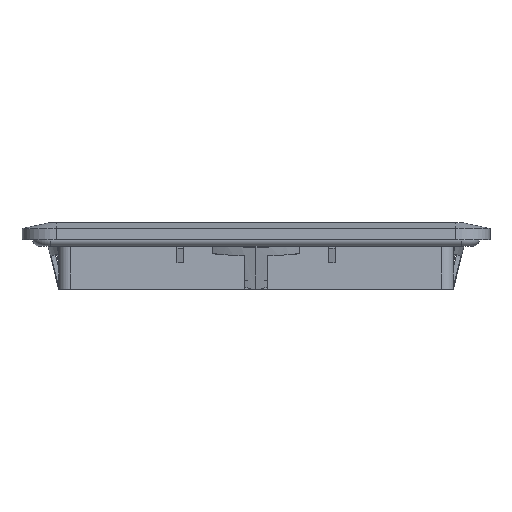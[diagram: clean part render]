
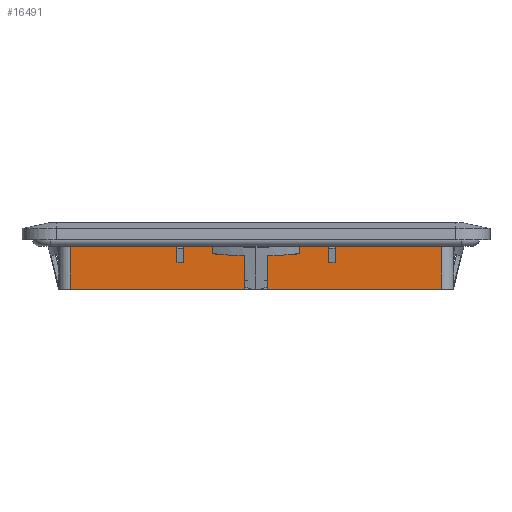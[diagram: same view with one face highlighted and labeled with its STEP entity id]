
A CAD part, front view. The second image highlights one B-rep face of the part: STEP entity #16491.
In plain terms, the highlighted planar face has unit normal (0, -1, 0).
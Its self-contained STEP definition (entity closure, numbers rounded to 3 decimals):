
#1213 = ORIENTED_EDGE ( 'NONE', *, *, #26068, .F. ) ;
#1215 = ORIENTED_EDGE ( 'NONE', *, *, #26067, .T. ) ;
#1217 = ORIENTED_EDGE ( 'NONE', *, *, #25685, .F. ) ;
#1219 = ORIENTED_EDGE ( 'NONE', *, *, #26066, .T. ) ;
#1221 = ORIENTED_EDGE ( 'NONE', *, *, #26087, .T. ) ;
#1223 = ORIENTED_EDGE ( 'NONE', *, *, #26065, .F. ) ;
#1225 = ORIENTED_EDGE ( 'NONE', *, *, #26064, .F. ) ;
#1227 = ORIENTED_EDGE ( 'NONE', *, *, #26063, .T. ) ;
#1229 = ORIENTED_EDGE ( 'NONE', *, *, #26091, .T. ) ;
#1232 = ORIENTED_EDGE ( 'NONE', *, *, #26062, .F. ) ;
#1234 = ORIENTED_EDGE ( 'NONE', *, *, #26061, .F. ) ;
#1236 = ORIENTED_EDGE ( 'NONE', *, *, #26060, .T. ) ;
#1238 = ORIENTED_EDGE ( 'NONE', *, *, #14871, .T. ) ;
#1240 = ORIENTED_EDGE ( 'NONE', *, *, #26059, .F. ) ;
#1242 = ORIENTED_EDGE ( 'NONE', *, *, #25678, .F. ) ;
#1244 = ORIENTED_EDGE ( 'NONE', *, *, #26058, .F. ) ;
#1807 = CARTESIAN_POINT ( 'NONE',  ( -5., -86., -21.5 ) ) ;
#1829 = CARTESIAN_POINT ( 'NONE',  ( -81., -86., -21.5 ) ) ;
#1878 = CARTESIAN_POINT ( 'NONE',  ( 5., -86., -21.5 ) ) ;
#1889 = CARTESIAN_POINT ( 'NONE',  ( 81., -86., -21.5 ) ) ;
#2618 = CARTESIAN_POINT ( 'NONE',  ( -34.5, -86., -10. ) ) ;
#2638 = CARTESIAN_POINT ( 'NONE',  ( -34.5, -86., 2. ) ) ;
#2719 = CARTESIAN_POINT ( 'NONE',  ( -81., -86., 2. ) ) ;
#4400 = LINE ( 'NONE', #23827, #4402 ) ;
#4402 = VECTOR ( 'NONE', #23819, 1000. ) ;
#4407 = LINE ( 'NONE', #23845, #4410 ) ;
#4410 = VECTOR ( 'NONE', #23846, 1000. ) ;
#4756 = LINE ( 'NONE', #23263, #4781 ) ;
#4770 = LINE ( 'NONE', #23284, #4773 ) ;
#4772 = LINE ( 'NONE', #23286, #4775 ) ;
#4773 = VECTOR ( 'NONE', #23285, 1000. ) ;
#4774 = LINE ( 'NONE', #23288, #4777 ) ;
#4775 = VECTOR ( 'NONE', #23287, 1000. ) ;
#4776 = LINE ( 'NONE', #23290, #4779 ) ;
#4777 = VECTOR ( 'NONE', #23289, 1000. ) ;
#4778 = LINE ( 'NONE', #23269, #4787 ) ;
#4779 = VECTOR ( 'NONE', #23292, 1000. ) ;
#4780 = LINE ( 'NONE', #23294, #4783 ) ;
#4781 = VECTOR ( 'NONE', #23293, 1000. ) ;
#4782 = LINE ( 'NONE', #23296, #4785 ) ;
#4783 = VECTOR ( 'NONE', #23295, 1000. ) ;
#4785 = VECTOR ( 'NONE', #23298, 1000. ) ;
#4786 = LINE ( 'NONE', #23300, #4789 ) ;
#4787 = VECTOR ( 'NONE', #23299, 1000. ) ;
#4788 = LINE ( 'NONE', #23302, #4791 ) ;
#4789 = VECTOR ( 'NONE', #23301, 1000. ) ;
#4790 = LINE ( 'NONE', #23304, #4793 ) ;
#4791 = VECTOR ( 'NONE', #23303, 1000. ) ;
#4793 = VECTOR ( 'NONE', #23305, 1000. ) ;
#4828 = LINE ( 'NONE', #23319, #4830 ) ;
#4830 = VECTOR ( 'NONE', #23313, 1000. ) ;
#4835 = LINE ( 'NONE', #16990, #4838 ) ;
#4838 = VECTOR ( 'NONE', #16991, 1000. ) ;
#6192 = CARTESIAN_POINT ( 'NONE',  ( 5., -86., -17.5 ) ) ;
#6198 = CARTESIAN_POINT ( 'NONE',  ( -5., -86., -17.5 ) ) ;
#6225 = CARTESIAN_POINT ( 'NONE',  ( -31.5, -86., 2. ) ) ;
#6228 = CARTESIAN_POINT ( 'NONE',  ( 31.5, -86., 2. ) ) ;
#6393 = CARTESIAN_POINT ( 'NONE',  ( 34.5, -86., 2. ) ) ;
#6476 = CARTESIAN_POINT ( 'NONE',  ( -31.5, -86., -10. ) ) ;
#6530 = CARTESIAN_POINT ( 'NONE',  ( 81., -86., 2. ) ) ;
#8026 = AXIS2_PLACEMENT_3D ( 'NONE', #8948, #8952, #8953 ) ;
#8946 = PLANE ( 'NONE',  #8026 ) ;
#8948 = CARTESIAN_POINT ( 'NONE',  ( -81., -86., -16.5 ) ) ;
#8952 = DIRECTION ( 'NONE',  ( 0., 1., 0. ) ) ;
#8953 = DIRECTION ( 'NONE',  ( -1., 0., 0. ) ) ;
#10181 = CARTESIAN_POINT ( 'NONE',  ( 34.5, -86., -10. ) ) ;
#10322 = CARTESIAN_POINT ( 'NONE',  ( 31.5, -86., -10. ) ) ;
#10898 = CARTESIAN_POINT ( 'NONE',  ( -81., -86., 2. ) ) ;
#10902 = DIRECTION ( 'NONE',  ( -1., 0., 0. ) ) ;
#11487 = LINE ( 'NONE', #10898, #11492 ) ;
#11492 = VECTOR ( 'NONE', #10902, 1000. ) ;
#12201 = VERTEX_POINT ( 'NONE', #6530 ) ;
#12289 = VERTEX_POINT ( 'NONE', #6476 ) ;
#12427 = VERTEX_POINT ( 'NONE', #6393 ) ;
#12577 = VERTEX_POINT ( 'NONE', #6228 ) ;
#12579 = VERTEX_POINT ( 'NONE', #6225 ) ;
#12597 = VERTEX_POINT ( 'NONE', #6198 ) ;
#12601 = VERTEX_POINT ( 'NONE', #6192 ) ;
#13839 = VERTEX_POINT ( 'NONE', #2719 ) ;
#13872 = VERTEX_POINT ( 'NONE', #2618 ) ;
#13998 = VERTEX_POINT ( 'NONE', #2638 ) ;
#14190 = VERTEX_POINT ( 'NONE', #10181 ) ;
#14330 = VERTEX_POINT ( 'NONE', #10322 ) ;
#14836 = EDGE_LOOP ( 'NONE', ( #1213, #1215, #1217, #1219, #1221, #1223, #1225, #1227, #1229, #1232, #1234, #1236, #1238, #1240, #1242, #1244 ) ) ;
#14871 = EDGE_CURVE ( 'NONE', #13998, #13839, #11487, .T. ) ;
#16491 = ADVANCED_FACE ( 'NONE', ( #17775 ), #8946, .F. ) ;
#16990 = CARTESIAN_POINT ( 'NONE',  ( -81., -86., 2. ) ) ;
#16991 = DIRECTION ( 'NONE',  ( -1., 0., 0. ) ) ;
#17775 = FACE_OUTER_BOUND ( 'NONE', #14836, .T. ) ;
#19516 = VERTEX_POINT ( 'NONE', #1807 ) ;
#19538 = VERTEX_POINT ( 'NONE', #1829 ) ;
#19572 = VERTEX_POINT ( 'NONE', #1878 ) ;
#19578 = VERTEX_POINT ( 'NONE', #1889 ) ;
#23263 = CARTESIAN_POINT ( 'NONE',  ( -31.5, -86., -10. ) ) ;
#23269 = CARTESIAN_POINT ( 'NONE',  ( 34.5, -86., -10. ) ) ;
#23284 = CARTESIAN_POINT ( 'NONE',  ( -5., -86., -17.5 ) ) ;
#23285 = DIRECTION ( 'NONE',  ( 0., 0., -1. ) ) ;
#23286 = CARTESIAN_POINT ( 'NONE',  ( -81., -86., -16.5 ) ) ;
#23287 = DIRECTION ( 'NONE',  ( 0., 0., 1. ) ) ;
#23288 = CARTESIAN_POINT ( 'NONE',  ( -34.5, -86., -10. ) ) ;
#23289 = DIRECTION ( 'NONE',  ( 0., 0., 1. ) ) ;
#23290 = CARTESIAN_POINT ( 'NONE',  ( -31.5, -86., -10. ) ) ;
#23292 = DIRECTION ( 'NONE',  ( 1., 0., 0. ) ) ;
#23293 = DIRECTION ( 'NONE',  ( 0., 0., 1. ) ) ;
#23294 = CARTESIAN_POINT ( 'NONE',  ( 31.5, -86., -10. ) ) ;
#23295 = DIRECTION ( 'NONE',  ( 0., 0., 1. ) ) ;
#23296 = CARTESIAN_POINT ( 'NONE',  ( 31.5, -86., -10. ) ) ;
#23298 = DIRECTION ( 'NONE',  ( 1., 0., 0. ) ) ;
#23299 = DIRECTION ( 'NONE',  ( 0., 0., 1. ) ) ;
#23300 = CARTESIAN_POINT ( 'NONE',  ( 81., -86., -16.5 ) ) ;
#23301 = DIRECTION ( 'NONE',  ( 0., 0., 1. ) ) ;
#23302 = CARTESIAN_POINT ( 'NONE',  ( 5., -86., -17.5 ) ) ;
#23303 = DIRECTION ( 'NONE',  ( 0., 0., -1. ) ) ;
#23304 = CARTESIAN_POINT ( 'NONE',  ( -5., -86., -17.5 ) ) ;
#23305 = DIRECTION ( 'NONE',  ( -1., 0., 0. ) ) ;
#23313 = DIRECTION ( 'NONE',  ( -1., 0., 0. ) ) ;
#23319 = CARTESIAN_POINT ( 'NONE',  ( -81., -86., 2. ) ) ;
#23819 = DIRECTION ( 'NONE',  ( -1., 0., 0. ) ) ;
#23827 = CARTESIAN_POINT ( 'NONE',  ( -81., -86., -21.5 ) ) ;
#23845 = CARTESIAN_POINT ( 'NONE',  ( -81., -86., -21.5 ) ) ;
#23846 = DIRECTION ( 'NONE',  ( -1., 0., 0. ) ) ;
#25678 = EDGE_CURVE ( 'NONE', #19516, #19538, #4400, .T. ) ;
#25685 = EDGE_CURVE ( 'NONE', #19578, #19572, #4407, .T. ) ;
#26058 = EDGE_CURVE ( 'NONE', #12597, #19516, #4770, .T. ) ;
#26059 = EDGE_CURVE ( 'NONE', #19538, #13839, #4772, .T. ) ;
#26060 = EDGE_CURVE ( 'NONE', #13872, #13998, #4774, .T. ) ;
#26061 = EDGE_CURVE ( 'NONE', #13872, #12289, #4776, .T. ) ;
#26062 = EDGE_CURVE ( 'NONE', #12289, #12579, #4756, .T. ) ;
#26063 = EDGE_CURVE ( 'NONE', #14330, #12577, #4780, .T. ) ;
#26064 = EDGE_CURVE ( 'NONE', #14330, #14190, #4782, .T. ) ;
#26065 = EDGE_CURVE ( 'NONE', #14190, #12427, #4778, .T. ) ;
#26066 = EDGE_CURVE ( 'NONE', #19578, #12201, #4786, .T. ) ;
#26067 = EDGE_CURVE ( 'NONE', #12601, #19572, #4788, .T. ) ;
#26068 = EDGE_CURVE ( 'NONE', #12601, #12597, #4790, .T. ) ;
#26087 = EDGE_CURVE ( 'NONE', #12201, #12427, #4828, .T. ) ;
#26091 = EDGE_CURVE ( 'NONE', #12577, #12579, #4835, .T. ) ;
